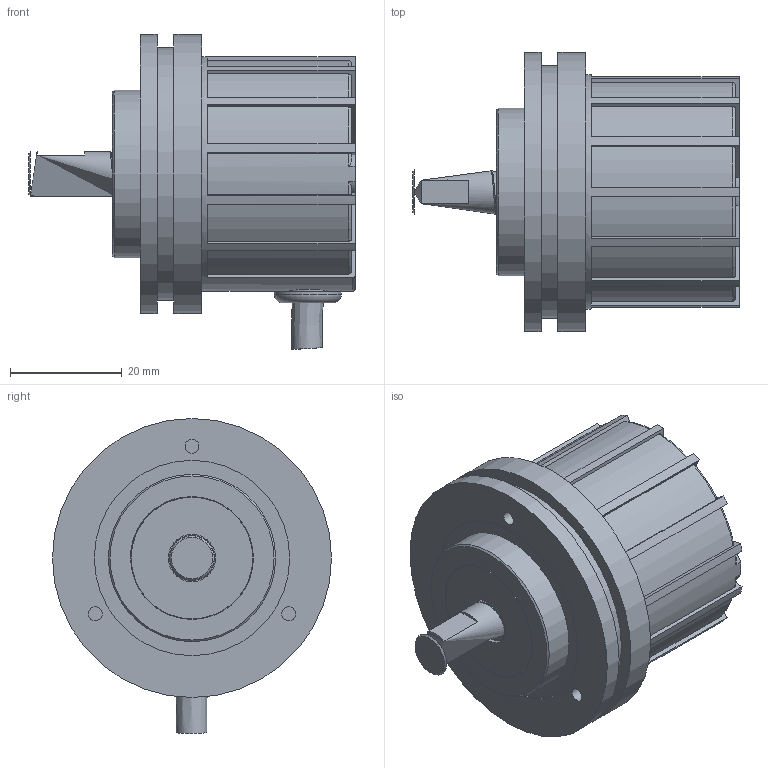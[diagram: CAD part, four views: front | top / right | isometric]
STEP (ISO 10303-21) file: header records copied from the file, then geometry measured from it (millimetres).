
FILE_DESCRIPTION( ( 'Unknown' ), '1' );
FILE_NAME( 'X:/I - Italia/UT - Ufficio Tecnico/Documenti Tecnico/Schede prodotti/InDesign/Assiemi SolidEdge per cataloghi/STEP ASSIEMI/EL40X.stp', 'Unknown', ( 'Unknown' ), ( 'Unknown' ), 'PSStep 15.0.49', 'Unknown', ' ' );
FILE_SCHEMA( ( 'AUTOMOTIVE_DESIGN { 1 0 10303 214 1 1 1 1 }' ) );
Length unit declared in the file: millimetre
Products named in the file (5): cavo
Bounding box: 58.5 x 50 x 56.45 mm (x, y, z)
Volume: 27103.6 mm3; surface area: 21299.1 mm2
Topology: 4 solids, 5 shells, 345 faces, 878 edges, 584 vertices
Faces by surface type: plane 214, cylinder 95, torus 19, cone 10, bspline 7
Full cylindrical faces by diameter (mm): 2.5 x5, 3 x4, 5 x2, 5.6 x2, 6 x3, 8 x2, 8.5 x1, 12 x1, 12.5 x1, 17.8 x1, 20 x1, 21.8 x1, 22 x9, 30 x1, 35 x1, 36 x1, 38.8 x1, 39 x1, 42 x1, 45.2 x1, 50 x2
Entity records: 16832 total; most frequent: CARTESIAN_POINT 6569, DIRECTION 1553, ORIENTED_EDGE 1496, EDGE_CURVE 748, AXIS2_PLACEMENT_3D 533, VERTEX_POINT 525, LINE 487, VECTOR 487
